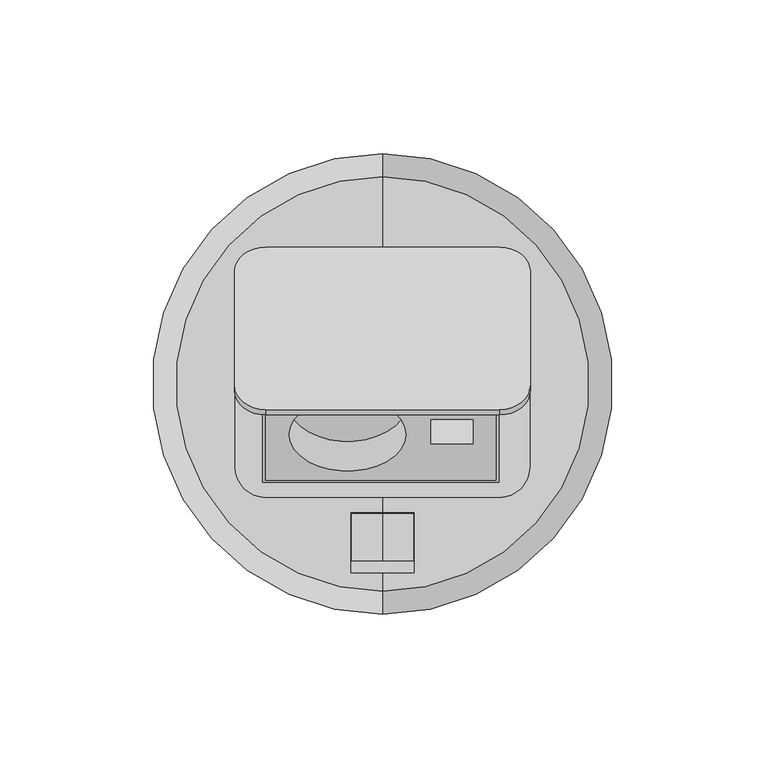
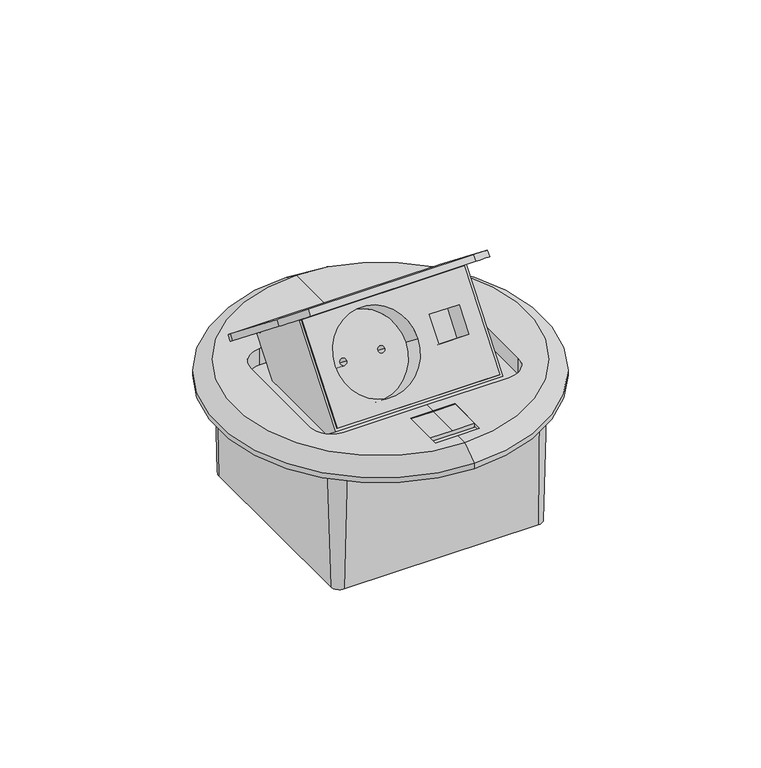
"""IFC4 building model written with IfcOpenShell, lengths in millimetres: proxy geometry, Electrical_Installation_Hager_VE-EE_Floor-socket-round : Floor socket round single a. RJ45 bronze."""

from ifc_helpers import new_model, si_unit, point, frame, frame_2d, origin, place, context, project, spatial, polyline, circle_curve, trimmed, segment, composite_curve, outline, extrude, source, transform, mapped, element, save
from ifc_brep_helpers import plane_surface, cylinder_surface, revolved_surface, spline_surface, advanced_brep


def electrical_fixtures_b99c55f5(model_context):
    return source(origin(), model_context, "Body", "SolidModel", [
        advanced_brep(
        [(0.0, -67.45, 8.0), (0.0, 67.45, 8.0), (0.0, 74.947601, 2.4959519), (0.0, -74.947601, 2.4959519), (0.0, -61.6, 8.0), (-10.35, -61.6, 8.0), (-10.35, -41.7, 8.0), (0.0, -41.7, 8.0), (0.0, -36.95, 8.0), (-38.1, -36.95, 8.0), (-48.1, -26.95, 8.0), (-48.1, 20.5125, 8.0), (-38.1, 30.5125, 8.0), (0.0, 30.5125, 8.0), (0.0, -57.56, 8.0), (0.0, -42.26, 8.0), (-10.15, -42.26, 8.0), (-10.15, -57.56, 8.0), (38.1, 30.5125, 8.0), (48.1, 20.5125, 8.0), (48.1, -26.95, 8.0), (38.1, -36.95, 8.0), (10.35, -41.7, 8.0), (10.35, -61.6, 8.0), (10.15, -57.56, 8.0), (10.15, -42.26, 8.0), (0.0, -74.947601, 0.0), (0.0, 74.947601, 0.0), (0.0, 30.5125, 0.0), (-38.1, 30.5125, 0.0), (-48.1, 20.5125, 0.0), (-48.1, -26.95, 0.0), (-38.1, -36.95, 0.0), (0.0, -36.95, 0.0), (38.1, -36.95, 0.0), (48.1, -26.95, 0.0), (48.1, 20.5125, 0.0), (38.1, 30.5125, 0.0), (-10.35, -61.6, 6.1575222), (10.35, -61.6, 6.1575222), (10.35, -41.7, 6.1575222), (-10.35, -41.7, 6.1575222), (10.15, -57.56, 6.1575222), (-10.15, -57.56, 6.1575222), (-10.15, -42.26, 6.1575222), (10.15, -42.26, 6.1575222)],
        [
            (0, 1, circle_curve(frame((0.0, 0.0, 8.0), z_axis=(0.0, 0.0, -1.0), x_axis=(0.0, 1.0, 0.0)), 67.45)),
            (1, 2),
            (2, 3, circle_curve(frame((0.0, 0.0, 2.4959519), z_axis=(0.0, 0.0, 1.0), x_axis=(0.0, 1.0, 0.0)), 74.947601)),
            (3, 0),
            (1, 0, circle_curve(frame((0.0, 0.0, 8.0), z_axis=(0.0, 0.0, -1.0), x_axis=(0.0, 1.0, 0.0)), 67.45)),
            (3, 2, circle_curve(frame((0.0, 0.0, 2.4959519), z_axis=(0.0, 0.0, 1.0), x_axis=(0.0, 1.0, 0.0)), 74.947601)),
            (0, 4),
            (4, 5),
            (5, 6),
            (6, 7),
            (7, 8),
            (8, 9),
            (9, 10, circle_curve(frame((-38.1, -26.95, 8.0), z_axis=(0.0, 0.0, -1.0), x_axis=(1.0, 0.0, 0.0)), 10.0)),
            (10, 11),
            (11, 12, circle_curve(frame((-38.1, 20.5125, 8.0), z_axis=(0.0, 0.0, -1.0), x_axis=(1.0, 0.0, 0.0)), 10.0)),
            (12, 13),
            (13, 1),
            (14, 15),
            (15, 16),
            (16, 17),
            (17, 14),
            (13, 18),
            (18, 19, circle_curve(frame((38.1, 20.5125, 8.0), z_axis=(0.0, 0.0, -1.0), x_axis=(-1.0, 0.0, 0.0)), 10.0)),
            (19, 20),
            (20, 21, circle_curve(frame((38.1, -26.95, 8.0), z_axis=(0.0, 0.0, -1.0), x_axis=(1.0, 0.0, 0.0)), 10.0)),
            (21, 8),
            (7, 22),
            (22, 23),
            (23, 4),
            (14, 24),
            (24, 25),
            (25, 15),
            (26, 27, circle_curve(frame((0.0, 0.0, 0.0), z_axis=(0.0, 0.0, -1.0), x_axis=(0.0, 1.0, 0.0)), 74.947601)),
            (27, 28),
            (28, 29),
            (29, 30, circle_curve(frame((-38.1, 20.5125, 0.0), z_axis=(0.0, 0.0, 1.0), x_axis=(1.0, 0.0, 0.0)), 10.0)),
            (30, 31),
            (31, 32, circle_curve(frame((-38.1, -26.95, 0.0), z_axis=(0.0, 0.0, 1.0), x_axis=(1.0, 0.0, 0.0)), 10.0)),
            (32, 33),
            (33, 26),
            (27, 26, circle_curve(frame((0.0, 0.0, 0.0), z_axis=(0.0, 0.0, -1.0), x_axis=(0.0, 1.0, 0.0)), 74.947601)),
            (33, 34),
            (34, 35, circle_curve(frame((38.1, -26.95, 0.0), z_axis=(0.0, 0.0, 1.0), x_axis=(1.0, 0.0, 0.0)), 10.0)),
            (35, 36),
            (36, 37, circle_curve(frame((38.1, 20.5125, 0.0), z_axis=(0.0, 0.0, 1.0), x_axis=(-1.0, 0.0, 0.0)), 10.0)),
            (37, 28),
            (2, 27),
            (26, 3),
            (31, 10),
            (9, 32),
            (21, 34),
            (20, 35),
            (19, 36),
            (18, 37),
            (12, 29),
            (11, 30),
            (38, 39),
            (39, 40),
            (40, 41),
            (41, 38),
            (42, 43),
            (43, 44),
            (44, 45),
            (45, 42),
            (38, 5),
            (23, 39),
            (22, 40),
            (6, 41),
            (42, 24),
            (17, 43),
            (16, 44),
            (25, 45),
        ],
        [
            revolved_surface(polyline([(0.0, 74.947601, 2.4959519), (0.0, 67.45, 8.0)]), (0.0, 0.0, 28.9359729), (0.0, 0.0, 1.0)),
            plane_surface(frame((0.0, 0.0, 8.0), z_axis=(0.0, 0.0, 1.0), x_axis=(0.0, 1.0, 0.0))),
            plane_surface(frame((0.0, 0.0, 0.0), z_axis=(0.0, 0.0, -1.0), x_axis=(0.0, 1.0, 0.0))),
            cylinder_surface(frame((0.0, 0.0, 28.9359729), z_axis=(0.0, 0.0, 1.0), x_axis=(0.0, 1.0, 0.0)), 74.947601),
            revolved_surface(polyline([(-28.1, -26.95, 8.0), (-28.1, -26.95, 0.0)]), (-38.1, -26.95, -20.2336443), (0.0, 0.0, 1.0)),
            plane_surface(frame((-38.1, -36.95, 8.0), z_axis=(0.0, 1.0, 0.0), x_axis=(0.0, 0.0, -1.0))),
            revolved_surface(polyline([(48.1, -26.95, 8.0), (48.1, -26.95, 0.0)]), (38.1, -26.95, -20.2336443), (0.0, 0.0, 1.0)),
            plane_surface(frame((48.1, -26.95, 8.0), z_axis=(-1.0, 0.0, 0.0), x_axis=(0.0, 0.0, -1.0))),
            revolved_surface(polyline([(28.1, 20.5125, 8.0), (28.1, 20.5125, 0.0)]), (38.1, 20.5125, -20.2336443), (0.0, 0.0, 1.0)),
            plane_surface(frame((38.1, 30.5125, 8.0), z_axis=(0.0, -1.0, 0.0), x_axis=(0.0, 0.0, -1.0))),
            revolved_surface(polyline([(-28.1, 20.5125, 8.0), (-28.1, 20.5125, 0.0)]), (-38.1, 20.5125, -20.2336443), (0.0, 0.0, 1.0)),
            plane_surface(frame((-48.1, 20.5125, 8.0), z_axis=(1.0, 0.0, 0.0), x_axis=(0.0, 0.0, -1.0))),
            plane_surface(frame((10.35, -61.6, 6.1575222), z_axis=(0.0, 0.0, 1.0), x_axis=(-1.0, 0.0, 0.0))),
            plane_surface(frame((-10.35, -61.6, 8.0), z_axis=(0.0, 1.0, 0.0), x_axis=(0.0, 0.0, -1.0))),
            plane_surface(frame((10.35, -61.6, 8.0), z_axis=(-1.0, 0.0, 0.0), x_axis=(0.0, 0.0, -1.0))),
            plane_surface(frame((10.35, -41.7, 8.0), z_axis=(0.0, -1.0, 0.0), x_axis=(0.0, 0.0, -1.0))),
            plane_surface(frame((-10.35, -41.7, 8.0), z_axis=(1.0, 0.0, 0.0), x_axis=(0.0, 0.0, -1.0))),
            plane_surface(frame((10.15, -57.56, 8.0), z_axis=(0.0, -1.0, 0.0), x_axis=(0.0, 0.0, -1.0))),
            plane_surface(frame((-10.15, -57.56, 8.0), z_axis=(-1.0, 0.0, 0.0), x_axis=(0.0, 0.0, -1.0))),
            plane_surface(frame((-10.15, -42.26, 8.0), z_axis=(0.0, 1.0, 0.0), x_axis=(0.0, 0.0, -1.0))),
            plane_surface(frame((10.15, -42.26, 8.0), z_axis=(1.0, 0.0, 0.0), x_axis=(0.0, 0.0, -1.0))),
        ],
        [
            (0, [[1, 2, 3, 4]]),
            (0, [[-2, 5, -4, 6]]),
            (1, [[-1, 7, 8, 9, 10, 11, 12, 13, 14, 15, 16, 17]]),
            (1, [[18, 19, 20, 21]]),
            (1, [[-5, -17, 22, 23, 24, 25, 26, -11, 27, 28, 29, -7]]),
            (1, [[-18, 30, 31, 32]]),
            (2, [[33, 34, 35, 36, 37, 38, 39, 40]]),
            (2, [[41, -40, 42, 43, 44, 45, 46, -34]]),
            (3, [[-3, 47, -33, 48]]),
            (3, [[-6, -48, -41, -47]]),
            (4, [[49, -13, 50, -38]]),
            (5, [[-50, -12, -26, 51, -42, -39]]),
            (6, [[-51, -25, 52, -43]]),
            (7, [[-52, -24, 53, -44]]),
            (8, [[-53, -23, 54, -45]]),
            (9, [[-54, -22, -16, 55, -35, -46]]),
            (10, [[-55, -15, 56, -36]]),
            (11, [[-49, -37, -56, -14]]),
            (12, [[57, 58, 59, 60], [61, 62, 63, 64]]),
            (13, [[-57, 65, -8, -29, 66]]),
            (14, [[-58, -66, -28, 67]]),
            (15, [[-59, -67, -27, -10, 68]]),
            (16, [[-60, -68, -9, -65]]),
            (17, [[-61, 69, -30, -21, 70]]),
            (18, [[-62, -70, -20, 71]]),
            (19, [[-63, -71, -19, -32, 72]]),
            (20, [[-64, -72, -31, -69]]),
        ],
    ),
        advanced_brep(
        [(36.9, -2.9804414, 42.2807638), (36.9, 31.0185269, 15.2754956), (-38.1, 31.0185269, 15.2754956), (-38.1, -2.9804414, 42.2807638), (36.9, -31.3883088, 6.5159575), (-38.1, -31.3883088, 6.5159575), (-38.1, 2.6106594, -20.4893107), (36.9, 2.6106594, -20.4893107), (-30.3664952, -16.4552969, 25.3162521), (7.6335048, -16.4552969, 25.3162521), (15.77713, -11.6911014, 31.3142571), (29.52713, -11.6911014, 31.3142571), (29.52713, -19.4883402, 21.4977252), (15.77713, -19.4883402, 21.4977252), (7.6335048, -6.8376873, 17.6770166), (-30.3664952, -6.8376873, 17.6770166), (-22.4382418, -6.6109294, 17.9624992), (-19.4382418, -6.6109294, 17.9624992), (-4.9382418, -6.6109294, 17.9624992), (-1.9382418, -6.6109294, 17.9624992), (29.52713, -2.0734918, 23.6750216), (15.77713, -2.0734918, 23.6750216), (15.77713, -9.8707306, 13.8584897), (29.52713, -9.8707306, 13.8584897), (-19.4382418, 9.1049917, 5.479395), (-22.4382418, 9.1049917, 5.479395), (-1.9382418, 9.1049917, 5.479395), (-4.9382418, 9.1049917, 5.479395)],
        [
            (0, 1),
            (1, 2),
            (2, 3),
            (3, 0),
            (4, 5),
            (5, 6),
            (6, 7),
            (7, 4),
            (0, 4),
            (7, 1),
            (6, 2),
            (5, 3),
            (8, 9, circle_curve(frame((-11.3664952, -16.4552969, 25.3162521), z_axis=(0.0, 0.7830425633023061, -0.6219681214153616), x_axis=(-1.0, 0.0, 0.0)), 19.0)),
            (9, 8, circle_curve(frame((-11.3664952, -16.4552969, 25.3162521), z_axis=(0.0, 0.7830425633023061, -0.6219681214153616), x_axis=(-1.0, 0.0, 0.0)), 19.0)),
            (10, 11),
            (11, 12),
            (12, 13),
            (13, 10),
            (14, 15, circle_curve(frame((-11.3664952, -6.8376873, 17.6770166), z_axis=(0.0, -0.7830425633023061, 0.6219681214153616), x_axis=(-1.0, 0.0, 0.0)), 19.0)),
            (15, 14, circle_curve(frame((-11.3664952, -6.8376873, 17.6770166), z_axis=(0.0, -0.7830425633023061, 0.6219681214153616), x_axis=(-1.0, 0.0, 0.0)), 19.0)),
            (16, 17, circle_curve(frame((-20.9382418, -6.6109294, 17.9624992), z_axis=(0.0, 0.7830425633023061, -0.6219681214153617), x_axis=(-1.0, 0.0, 0.0)), 1.5)),
            (17, 16, circle_curve(frame((-20.9382418, -6.6109294, 17.9624992), z_axis=(0.0, 0.7830425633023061, -0.6219681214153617), x_axis=(-1.0, 0.0, 0.0)), 1.5)),
            (18, 19, circle_curve(frame((-3.4382418, -6.6109294, 17.9624992), z_axis=(0.0, 0.7830425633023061, -0.6219681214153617), x_axis=(-1.0, 0.0, 0.0)), 1.5)),
            (19, 18, circle_curve(frame((-3.4382418, -6.6109294, 17.9624992), z_axis=(0.0, 0.7830425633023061, -0.6219681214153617), x_axis=(-1.0, 0.0, 0.0)), 1.5)),
            (20, 21),
            (21, 22),
            (22, 23),
            (23, 20),
            (14, 9),
            (8, 15),
            (20, 11),
            (10, 21),
            (13, 22),
            (12, 23),
            (24, 25, circle_curve(frame((-20.9382418, 9.1049917, 5.479395), z_axis=(0.0, -0.7830425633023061, 0.6219681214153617), x_axis=(-1.0, 0.0, 0.0)), 1.5)),
            (25, 24, circle_curve(frame((-20.9382418, 9.1049917, 5.479395), z_axis=(0.0, -0.7830425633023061, 0.6219681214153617), x_axis=(-1.0, 0.0, 0.0)), 1.5)),
            (26, 27, circle_curve(frame((-3.4382418, 9.1049917, 5.479395), z_axis=(0.0, -0.7830425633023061, 0.6219681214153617), x_axis=(-1.0, 0.0, 0.0)), 1.5)),
            (27, 26, circle_curve(frame((-3.4382418, 9.1049917, 5.479395), z_axis=(0.0, -0.7830425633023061, 0.6219681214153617), x_axis=(-1.0, 0.0, 0.0)), 1.5)),
            (24, 17),
            (16, 25),
            (26, 19),
            (18, 27),
        ],
        [
            plane_surface(frame((36.9, 31.0185269, 15.2754956), z_axis=(0.0, 0.6219681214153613, 0.7830425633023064), x_axis=(0.0, 0.7830425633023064, -0.6219681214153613))),
            plane_surface(frame((36.9, 2.6106594, -20.4893107), z_axis=(0.0, -0.6219681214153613, -0.7830425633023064), x_axis=(0.0, -0.7830425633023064, 0.6219681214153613))),
            plane_surface(frame((36.9, -2.9804414, 42.2807638), z_axis=(1.0, 0.0, 0.0), x_axis=(0.0, -0.6219681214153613, -0.7830425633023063))),
            plane_surface(frame((36.9, 31.0185269, 15.2754956), z_axis=(0.0, 0.7830425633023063, -0.6219681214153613), x_axis=(0.0, -0.6219681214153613, -0.7830425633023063))),
            plane_surface(frame((-38.1, 31.0185269, 15.2754956), z_axis=(-1.0, 0.0, 0.0), x_axis=(0.0, -0.6219681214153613, -0.7830425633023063))),
            plane_surface(frame((-38.1, -2.9804414, 42.2807638), z_axis=(0.0, -0.7830425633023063, 0.6219681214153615), x_axis=(0.0, -0.6219681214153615, -0.7830425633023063))),
            plane_surface(frame((-30.3664952, -6.8376873, 17.6770166), z_axis=(0.0, -0.7830425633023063, 0.6219681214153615), x_axis=(0.0, 0.6219681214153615, 0.7830425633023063))),
            revolved_surface(polyline([(-30.3664952, -16.45529688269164, 25.316252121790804), (-30.3664952, -6.8376873, 17.6770166)]), (-11.3664952, -6.8376873, 17.6770166), (0.0, -0.7830425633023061, 0.6219681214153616)),
            plane_surface(frame((29.52713, -11.6911014, 31.3142571), z_axis=(0.0, -0.6219681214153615, -0.7830425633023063), x_axis=(0.0, 0.7830425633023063, -0.6219681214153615))),
            plane_surface(frame((15.77713, -11.6911014, 31.3142571), z_axis=(1.0, 0.0, 0.0), x_axis=(0.0, 0.7830425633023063, -0.6219681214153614))),
            plane_surface(frame((15.77713, -19.4883402, 21.4977252), z_axis=(0.0, 0.6219681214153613, 0.7830425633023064), x_axis=(0.0, 0.7830425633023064, -0.6219681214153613))),
            plane_surface(frame((29.52713, -19.4883402, 21.4977252), z_axis=(-1.0, 0.0, 0.0), x_axis=(0.0, 0.7830425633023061, -0.6219681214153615))),
            plane_surface(frame((-22.4382418, 9.1049917, 5.479395), z_axis=(0.0, -0.7830425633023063, 0.6219681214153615), x_axis=(0.0, 0.6219681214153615, 0.7830425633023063))),
            revolved_surface(polyline([(-22.4382418, -6.610929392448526, 17.96249920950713), (-22.4382418, 9.1049917, 5.479395)]), (-20.9382418, 9.1049917, 5.479395), (0.0, -0.7830425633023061, 0.6219681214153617)),
            revolved_surface(polyline([(-4.9382418, -6.610929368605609, 17.96249923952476), (-4.9382418, 9.104991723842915, 5.479395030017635)]), (-3.4382418, -16.228539, 25.6017348), (0.0, -0.7830425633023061, 0.6219681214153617)),
        ],
        [
            (0, [[1, 2, 3, 4]]),
            (1, [[5, 6, 7, 8]]),
            (2, [[-1, 9, -8, 10]]),
            (3, [[-2, -10, -7, 11]]),
            (4, [[-3, -11, -6, 12]]),
            (5, [[-4, -12, -5, -9], [13, 14], [15, 16, 17, 18]]),
            (6, [[19, 20], [21, 22], [23, 24]]),
            (6, [[25, 26, 27, 28]]),
            (7, [[-19, 29, -13, 30]]),
            (7, [[-20, -30, -14, -29]]),
            (8, [[-25, 31, -15, 32]]),
            (9, [[-26, -32, -18, 33]]),
            (10, [[-27, -33, -17, 34]]),
            (11, [[-28, -34, -16, -31]]),
            (12, [[35, 36]]),
            (12, [[37, 38]]),
            (13, [[-35, 39, -21, 40]]),
            (13, [[-36, -40, -22, -39]]),
            (14, [[-37, 41, -23, 42]]),
            (14, [[-38, -42, -24, -41]]),
        ],
    ),
        extrude(outline(polyline([(42.9366536, -1.0), (-4.1015966, -1.0), (-4.1015966, 76.0), (42.9366536, 76.0), (42.9366536, -1.0)]), holes=[polyline([(41.9366535, 0.0), (41.9366535, 75.0), (-3.7375, 75.0), (-3.7375, 0.0), (41.9366535, 0.0)])]), frame((-38.1, 28.693921, 12.348874), z_axis=(0.0, -0.7830425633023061, 0.6219681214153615), x_axis=(0.0, -0.6219681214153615, -0.7830425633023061)), (0.0, 0.0, 1.0), 43.4190552),
        extrude(outline(composite_curve([segment(polyline([(0.0, -20.0), (-76.2, -20.0)]), True, "CONTINUOUS"), segment(trimmed(circle_curve(frame_2d((-76.2, -10.0)), 10.0), [point((-76.2, -20.0))], [point((-86.2, -10.0))], False, "CARTESIAN"), True, "CONTINUOUS"), segment(polyline([(-86.2, -10.0), (-86.2, 37.4624999)]), True, "CONTINUOUS"), segment(trimmed(circle_curve(frame_2d((-76.2, 37.4624999)), 10.0), [point((-86.2, 37.4624999))], [point((-76.2, 47.4625))], False, "CARTESIAN"), True, "CONTINUOUS"), segment(polyline([(-76.2, 47.4625), (0.0, 47.4625)]), True, "CONTINUOUS"), segment(trimmed(circle_curve(frame_2d((0.0, 37.4624999)), 10.0), [point((0.0, 47.4625))], [point((10.0, 37.4624999))], False, "CARTESIAN"), True, "CONTINUOUS"), segment(polyline([(10.0, 37.4624999), (10.0, -10.0)]), True, "CONTINUOUS"), segment(trimmed(circle_curve(frame_2d((0.0, -10.0)), 10.0), [point((10.0, -10.0))], [point((0.0, -20.0))], False, "CARTESIAN"), True, "CONTINUOUS")], self_intersect=False)), frame((-38.1, 27.1120695, 18.8433586), z_axis=(0.0, 0.6219681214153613, 0.7830425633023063), x_axis=(-1.0, 0.0, 0.0)), (0.0, 0.0, 1.0), 2.8),
        advanced_brep(
        [(44.25, 50.25, 0.0), (-44.2266887, 50.25, 0.0), (-50.2266887, 44.25, 0.0), (-50.2266887, -44.25, 0.0), (-44.2266887, -50.25, 0.0), (44.25, -50.25, 0.0), (50.25, -44.25, 0.0), (50.25, 44.25, 0.0), (44.7494858, 48.7494858, -58.9123857), (48.7494858, 44.7494858, -58.9123857), (48.7494858, -44.7494858, -58.9123857), (44.7494858, -48.7494858, -58.9123857), (-44.7494858, -48.7494858, -58.9123857), (-48.7494858, -44.7494858, -58.9123857), (-48.7494858, 44.7494858, -58.9123857), (-44.7494858, 48.7494858, -58.9123857)],
        [
            (0, 1),
            (1, 2, circle_curve(frame((-44.2266887, 44.25, 0.0), z_axis=(0.0, 0.0, 1.0), x_axis=(1.0, 0.0, 0.0)), 6.0)),
            (2, 3),
            (3, 4, circle_curve(frame((-44.2266887, -44.25, 0.0), z_axis=(0.0, 0.0, 1.0), x_axis=(1.0, 0.0, 0.0)), 6.0)),
            (4, 5),
            (5, 6, circle_curve(frame((44.25, -44.25, 0.0), z_axis=(0.0, 0.0, 1.0), x_axis=(1.0, 0.0, 0.0)), 6.0)),
            (6, 7),
            (7, 0, circle_curve(frame((44.25, 44.25, 0.0), z_axis=(0.0, 0.0, 1.0), x_axis=(1.0, 0.0, 0.0)), 6.0)),
            (8, 9, circle_curve(frame((44.7494858, 44.7494858, -58.9123857), z_axis=(0.0, 0.0, -1.0), x_axis=(1.0, 0.0, 0.0)), 4.0)),
            (9, 10),
            (10, 11, circle_curve(frame((44.7494858, -44.7494858, -58.9123857), z_axis=(0.0, 0.0, -1.0), x_axis=(1.0, 0.0, 0.0)), 4.0)),
            (11, 12),
            (12, 13, circle_curve(frame((-44.7494858, -44.7494858, -58.9123857), z_axis=(0.0, 0.0, -1.0), x_axis=(1.0, 0.0, 0.0)), 4.0)),
            (13, 14),
            (14, 15, circle_curve(frame((-44.7494858, 44.7494858, -58.9123857), z_axis=(0.0, 0.0, -1.0), x_axis=(1.0, 0.0, 0.0)), 4.0)),
            (15, 8),
            (15, 1),
            (0, 8),
            (14, 2),
            (13, 3),
            (12, 4),
            (11, 5),
            (10, 6),
            (9, 7),
        ],
        [
            plane_surface(frame((0.0116556, 0.0, 0.0), z_axis=(0.0, 0.0, 1.0), x_axis=(-1.0, 0.0, 0.0))),
            plane_surface(frame((0.0, 0.0, -58.9123857), z_axis=(0.0, 0.0, -1.0), x_axis=(-1.0, 0.0, 0.0))),
            plane_surface(frame((0.0, 48.7494858, -58.9123857), z_axis=(0.0, 0.9996757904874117, -0.025462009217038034), x_axis=(-1.0, 0.0, 0.0))),
            spline_surface(2, 1, [[(-44.7494858, 48.7494858, -58.9123857), (-44.2266887, 50.25, 0.0)], [(-48.7494858, 48.7494858, -58.9123857), (-50.2266887, 50.25, 0.0)], [(-48.7494858, 44.7494858, -58.9123857), (-50.2266887, 44.25, 0.0)]], [3, 3], [2, 2], [0.0, 1.0], [0.0, 1.0], weights=[[1.0, 1.0], [0.7071067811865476, 0.7071067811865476], [1.0, 1.0]]),
            plane_surface(frame((-48.7494858, 0.0, -58.9123857), z_axis=(-0.9996857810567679, 0.0, -0.02506669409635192), x_axis=(0.0, -1.0, 0.0))),
            spline_surface(2, 1, [[(-48.7494858, -44.7494858, -58.9123857), (-50.2266887, -44.25, 0.0)], [(-48.7494858, -48.7494858, -58.9123857), (-50.2266887, -50.25, 0.0)], [(-44.7494858, -48.7494858, -58.9123857), (-44.2266887, -50.25, 0.0)]], [3, 3], [2, 2], [0.0, 1.0], [0.0, 1.0], weights=[[1.0, 1.0], [0.7071067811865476, 0.7071067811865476], [1.0, 1.0]]),
            plane_surface(frame((0.0, -48.7494858, -58.9123857), z_axis=(0.0, -0.9996757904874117, -0.025462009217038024), x_axis=(1.0, 0.0, 0.0))),
            spline_surface(2, 1, [[(44.7494858, -48.7494858, -58.9123857), (44.25, -50.25, 0.0)], [(48.7494858, -48.7494858, -58.9123857), (50.25, -50.25, 0.0)], [(48.7494858, -44.7494858, -58.9123857), (50.25, -44.25, 0.0)]], [3, 3], [2, 2], [0.0, 1.0], [0.0, 1.0], weights=[[1.0, 1.0], [0.7071067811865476, 0.7071067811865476], [1.0, 1.0]]),
            plane_surface(frame((48.7494858, 0.0, -58.9123857), z_axis=(0.9996757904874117, 0.0, -0.025462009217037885), x_axis=(0.0, 1.0, 0.0))),
            spline_surface(2, 1, [[(48.7494858, 44.7494858, -58.9123857), (50.25, 44.25, 0.0)], [(48.7494858, 48.7494858, -58.9123857), (50.25, 50.25, 0.0)], [(44.7494858, 48.7494858, -58.9123857), (44.25, 50.25, 0.0)]], [3, 3], [2, 2], [0.0, 1.0], [0.0, 1.0], weights=[[1.0, 1.0], [0.7071067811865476, 0.7071067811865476], [1.0, 1.0]]),
        ],
        [
            (0, [[1, 2, 3, 4, 5, 6, 7, 8]]),
            (1, [[9, 10, 11, 12, 13, 14, 15, 16]]),
            (2, [[-16, 17, -1, 18]]),
            (3, [[-15, 19, -2, -17]]),
            (4, [[-14, 20, -3, -19]]),
            (5, [[-13, 21, -4, -20]]),
            (6, [[-12, 22, -5, -21]]),
            (7, [[-11, 23, -6, -22]]),
            (8, [[-10, 24, -7, -23]]),
            (9, [[-9, -18, -8, -24]]),
        ],
    ),
    ])


if __name__ == "__main__":
    model = new_model("IFC4")
    model_context = context("Model", 3, world=origin())
    ifc_project = project(units=[si_unit("LENGTHUNIT", "METRE", prefix="MILLI")], contexts=[model_context])
    site = spatial("IfcSite", under=ifc_project)
    building = spatial("IfcBuilding", under=site)
    placement = place(None, origin())
    electrical_fixtures_shape = electrical_fixtures_b99c55f5(model_context)
    element("IfcBuildingElementProxy", 1, Name="Electrical_Installation_Hager_VE-EE_Floor-socket-round : Floor socket round single a. RJ45 bronze", ObjectType="Electrical_Installation_Hager_VE-EE_Floor-socket-round : Floor socket round single a. RJ45 bronze", at=placement, inside=building, context=model_context, shape_type="MappedRepresentation", body=[
        mapped(electrical_fixtures_shape, transform((0.0, 0.0, 0.0), x_axis=(1.0, 0.0, 0.0), y_axis=(0.0, 1.0, 0.0), z_axis=(0.0, 0.0, 1.0))),
    ])
    save(model, "model.ifc")
